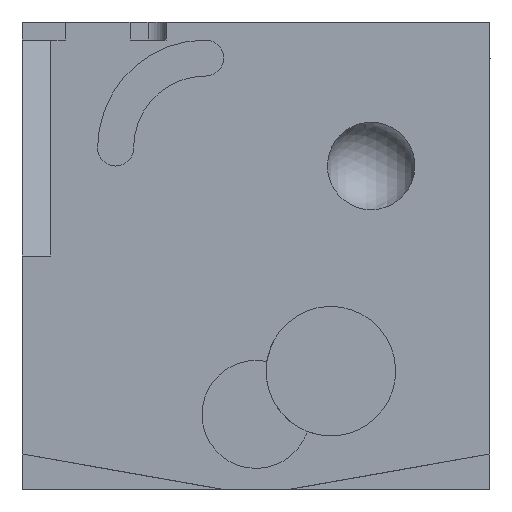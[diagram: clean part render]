
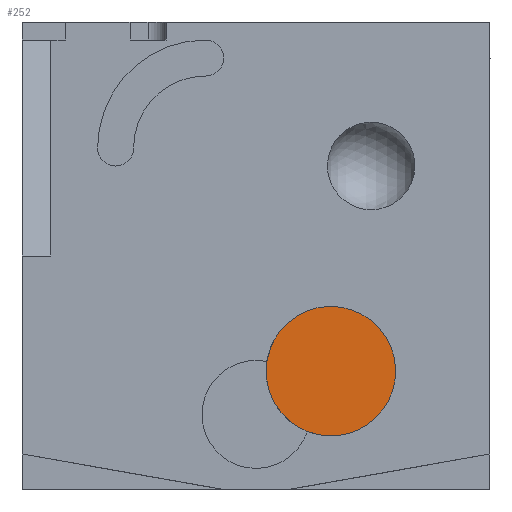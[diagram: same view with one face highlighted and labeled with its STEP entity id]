
A CAD part, left-side view. The second image highlights one B-rep face of the part: STEP entity #252.
In plain terms, the highlighted planar face has unit normal (-1, 0, 0).
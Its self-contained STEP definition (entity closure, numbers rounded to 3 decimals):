
#232=AXIS2_PLACEMENT_3D('Plane Axis2P3D',#229,#230,#231) ;
#236=AXIS2_PLACEMENT_3D('Circle Axis2P3D',#234,#235,$) ;
#245=AXIS2_PLACEMENT_3D('Circle Axis2P3D',#243,#244,$) ;
#229=CARTESIAN_POINT('Axis2P3D Location',(-22.5,0.,0.)) ;
#234=CARTESIAN_POINT('Axis2P3D Location',(-22.5,-20.785,-32.)) ;
#238=CARTESIAN_POINT('Vertex',(-22.5,-36.581,-40.63)) ;
#240=CARTESIAN_POINT('Vertex',(-22.5,-4.988,-23.37)) ;
#243=CARTESIAN_POINT('Axis2P3D Location',(-22.5,-20.785,-32.)) ;
#230=DIRECTION('Axis2P3D Direction',(-1.,0.,0.)) ;
#231=DIRECTION('Axis2P3D XDirection',(0.,-1.,0.)) ;
#235=DIRECTION('Axis2P3D Direction',(-1.,0.,0.)) ;
#244=DIRECTION('Axis2P3D Direction',(-1.,0.,0.)) ;
#249=ORIENTED_EDGE('',*,*,#242,.F.) ;
#250=ORIENTED_EDGE('',*,*,#247,.F.) ;
#252=ADVANCED_FACE('Corps principal',(#251),#233,.T.) ;
#237=CIRCLE('generated circle',#236,18.) ;
#246=CIRCLE('generated circle',#245,18.) ;
#242=EDGE_CURVE('',#239,#241,#237,.F.) ;
#247=EDGE_CURVE('',#241,#239,#246,.F.) ;
#248=EDGE_LOOP('',(#249,#250)) ;
#251=FACE_OUTER_BOUND('',#248,.T.) ;
#233=PLANE('Plane',#232) ;
#239=VERTEX_POINT('',#238) ;
#241=VERTEX_POINT('',#240) ;
